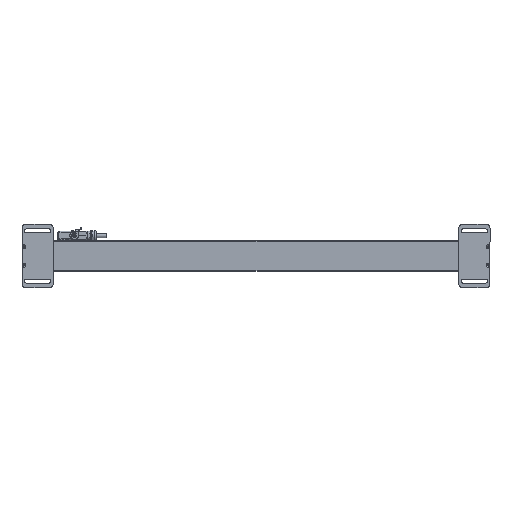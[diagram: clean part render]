
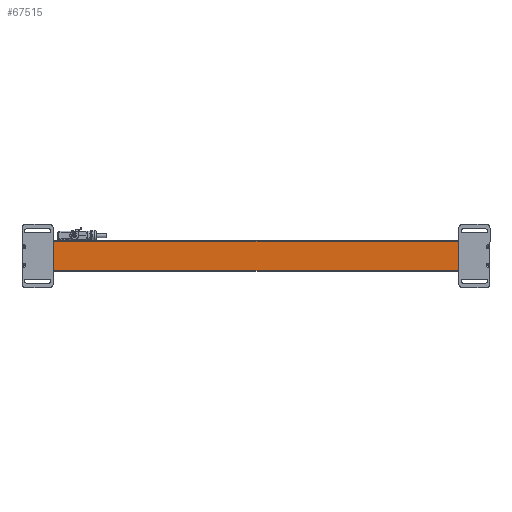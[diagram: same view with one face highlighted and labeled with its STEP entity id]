
A CAD part, front view. The second image highlights one B-rep face of the part: STEP entity #67515.
In plain terms, the highlighted planar face has unit normal (0, -1, 0).
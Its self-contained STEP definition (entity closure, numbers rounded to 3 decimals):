
#314 = DIRECTION ( 'NONE',  ( -1., 0., 0. ) ) ;
#6606 = EDGE_CURVE ( 'NONE', #51182, #60437, #81718, .T. ) ;
#7268 = LINE ( 'NONE', #52732, #42381 ) ;
#12387 = ORIENTED_EDGE ( 'NONE', *, *, #6606, .T. ) ;
#13072 = CARTESIAN_POINT ( 'NONE',  ( 1240., 0., -40. ) ) ;
#16673 = FACE_OUTER_BOUND ( 'NONE', #21422, .T. ) ;
#21422 = EDGE_LOOP ( 'NONE', ( #12387, #57861, #87734, #39465 ) ) ;
#26904 = CARTESIAN_POINT ( 'NONE',  ( 0., 0., 40. ) ) ;
#32528 = CARTESIAN_POINT ( 'NONE',  ( 1240., 0., 40. ) ) ;
#32560 = DIRECTION ( 'NONE',  ( 0., 1., 0. ) ) ;
#33814 = CARTESIAN_POINT ( 'NONE',  ( 0., 0., -40. ) ) ;
#34478 = CARTESIAN_POINT ( 'NONE',  ( 0., 0., 40. ) ) ;
#39465 = ORIENTED_EDGE ( 'NONE', *, *, #51394, .T. ) ;
#39502 = VERTEX_POINT ( 'NONE', #50708 ) ;
#42381 = VECTOR ( 'NONE', #314, 1000. ) ;
#43181 = DIRECTION ( 'NONE',  ( -1., 0., 0. ) ) ;
#48262 = CARTESIAN_POINT ( 'NONE',  ( 1240., 0., -40. ) ) ;
#50554 = AXIS2_PLACEMENT_3D ( 'NONE', #62367, #32560, #84950 ) ;
#50708 = CARTESIAN_POINT ( 'NONE',  ( 1240., 0., 40. ) ) ;
#51182 = VERTEX_POINT ( 'NONE', #26904 ) ;
#51394 = EDGE_CURVE ( 'NONE', #39502, #51182, #7268, .T. ) ;
#52732 = CARTESIAN_POINT ( 'NONE',  ( 1240., 0., 40. ) ) ;
#57861 = ORIENTED_EDGE ( 'NONE', *, *, #88114, .F. ) ;
#57977 = LINE ( 'NONE', #13072, #75583 ) ;
#60437 = VERTEX_POINT ( 'NONE', #33814 ) ;
#60699 = VECTOR ( 'NONE', #94357, 1000. ) ;
#62367 = CARTESIAN_POINT ( 'NONE',  ( 1240., 0., 40. ) ) ;
#67515 = ADVANCED_FACE ( 'NONE', ( #16673 ), #92145, .F. ) ;
#75583 = VECTOR ( 'NONE', #43181, 1000. ) ;
#76052 = VECTOR ( 'NONE', #92117, 1000. ) ;
#78373 = LINE ( 'NONE', #32528, #76052 ) ;
#80841 = VERTEX_POINT ( 'NONE', #48262 ) ;
#81718 = LINE ( 'NONE', #34478, #60699 ) ;
#84950 = DIRECTION ( 'NONE',  ( 0., 0., 1. ) ) ;
#87734 = ORIENTED_EDGE ( 'NONE', *, *, #94531, .F. ) ;
#88114 = EDGE_CURVE ( 'NONE', #80841, #60437, #57977, .T. ) ;
#92117 = DIRECTION ( 'NONE',  ( 0., 0., -1. ) ) ;
#92145 = PLANE ( 'NONE',  #50554 ) ;
#94357 = DIRECTION ( 'NONE',  ( 0., 0., -1. ) ) ;
#94531 = EDGE_CURVE ( 'NONE', #39502, #80841, #78373, .T. ) ;
